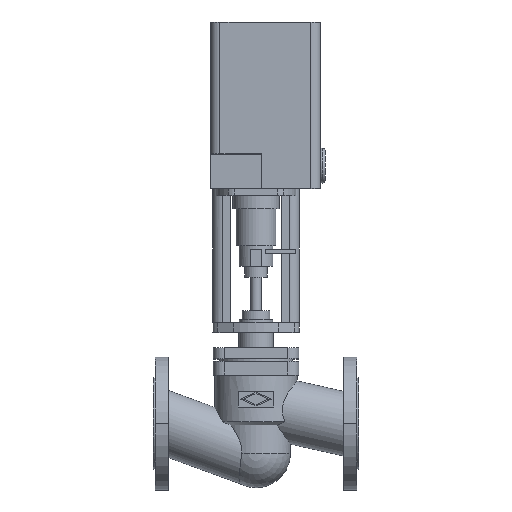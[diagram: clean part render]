
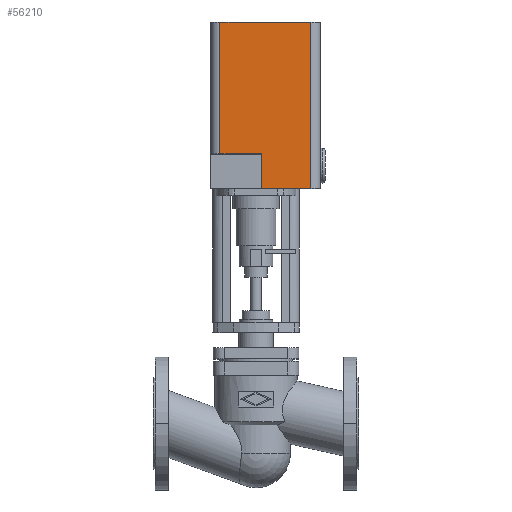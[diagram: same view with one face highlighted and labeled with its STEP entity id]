
A CAD part, top view. The second image highlights one B-rep face of the part: STEP entity #56210.
In plain terms, the highlighted planar face has unit normal (0, 0, 1).
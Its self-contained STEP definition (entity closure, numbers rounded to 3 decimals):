
#47320=CARTESIAN_POINT('',(237.6,354.5,89.));
#47330=VERTEX_POINT('',#47320);
#47360=CARTESIAN_POINT('',(237.6,354.5,89.));
#47370=DIRECTION('',(0.,-1.,0.));
#47380=VECTOR('',#47370,1.);
#47390=LINE('',#47360,#47380);
#47400=CARTESIAN_POINT('',(237.6,605.5,89.));
#47410=VERTEX_POINT('',#47400);
#47420=EDGE_CURVE('',#47410,#47330,#47390,.T.);
#50470=CARTESIAN_POINT('',(100.6,605.5,89.));
#50480=DIRECTION('',(-1.,0.,0.));
#50490=VECTOR('',#50480,1.);
#50500=LINE('',#50470,#50490);
#50510=CARTESIAN_POINT('',(100.6,605.5,89.));
#50520=VERTEX_POINT('',#50510);
#50530=EDGE_CURVE('',#47410,#50520,#50500,.T.);
#52370=CARTESIAN_POINT('',(163.6,354.5,89.));
#52380=VERTEX_POINT('',#52370);
#52430=CARTESIAN_POINT('',(100.6,354.5,89.));
#52440=DIRECTION('',(1.,0.,0.));
#52450=VECTOR('',#52440,1.);
#52460=LINE('',#52430,#52450);
#52470=EDGE_CURVE('',#52380,#47330,#52460,.T.);
#54910=CARTESIAN_POINT('',(100.6,406.5,89.));
#54920=VERTEX_POINT('',#54910);
#54950=CARTESIAN_POINT('',(196.3,406.5,89.));
#54960=DIRECTION('',(1.,0.,0.));
#54970=VECTOR('',#54960,1.);
#54980=LINE('',#54950,#54970);
#54990=CARTESIAN_POINT('',(163.6,406.5,89.));
#55000=VERTEX_POINT('',#54990);
#55010=EDGE_CURVE('',#54920,#55000,#54980,.T.);
#55580=CARTESIAN_POINT('',(163.6,354.5,89.));
#55590=DIRECTION('',(0.,-1.,0.));
#55600=VECTOR('',#55590,1.);
#55610=LINE('',#55580,#55600);
#55620=EDGE_CURVE('',#55000,#52380,#55610,.T.);
#55980=CARTESIAN_POINT('',(100.6,354.5,89.));
#55990=DIRECTION('',(0.,1.,0.));
#56000=VECTOR('',#55990,1.);
#56010=LINE('',#55980,#56000);
#56020=EDGE_CURVE('',#54920,#50520,#56010,.T.);
#56080=CARTESIAN_POINT('',(237.6,354.5,89.));
#56090=DIRECTION('',(0.,0.,1.));
#56100=DIRECTION('',(1.,0.,0.));
#56110=AXIS2_PLACEMENT_3D('',#56080,#56090,#56100);
#56120=PLANE('',#56110);
#56130=ORIENTED_EDGE('',*,*,#56020,.F.);
#56140=ORIENTED_EDGE('',*,*,#50530,.T.);
#56150=ORIENTED_EDGE('',*,*,#47420,.F.);
#56160=ORIENTED_EDGE('',*,*,#52470,.T.);
#56170=ORIENTED_EDGE('',*,*,#55620,.T.);
#56180=ORIENTED_EDGE('',*,*,#55010,.T.);
#56190=EDGE_LOOP('',(#56180,#56170,#56160,#56150,#56140,#56130));
#56200=FACE_OUTER_BOUND('',#56190,.T.);
#56210=ADVANCED_FACE('',(#56200),#56120,.T.);
